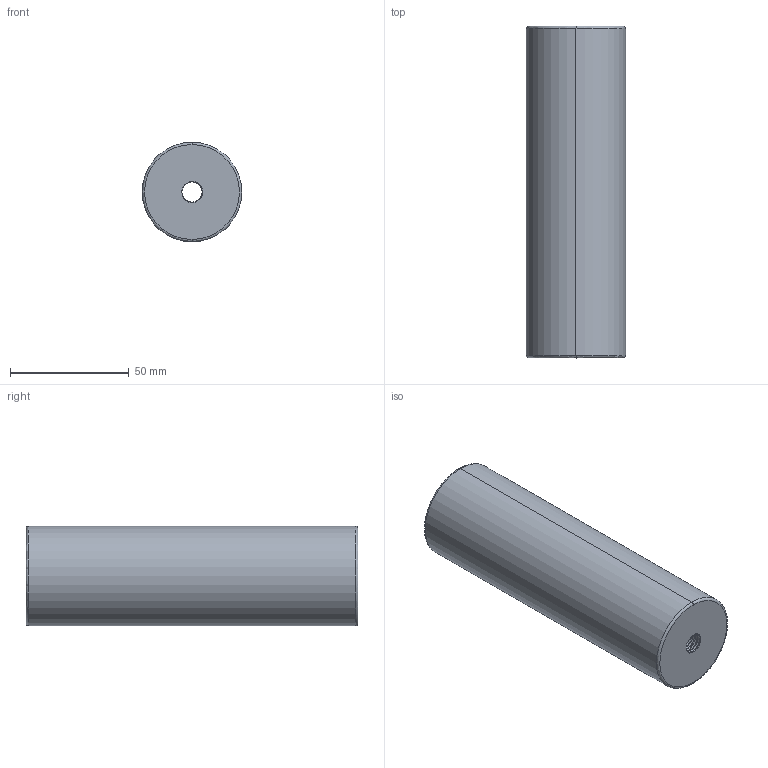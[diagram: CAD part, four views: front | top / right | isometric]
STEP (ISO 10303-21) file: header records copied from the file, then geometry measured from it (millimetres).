
FILE_DESCRIPTION( ( 'STEP AP203' ), '1' );
FILE_NAME( 'D:/Delta 3 D/D40/D40 - 42x140.step', '2002-12-31T23:13:23', ( ' ' ), ( ' ' ), 'XStep 1.0', ' ', ' ' );
FILE_SCHEMA( ( 'CONFIG_CONTROL_DESIGN' ) );
Length unit declared in the file: metre
Products named in the file (1): 1
Bounding box: 42 x 140 x 42 mm (x, y, z)
Volume: 84718.2 mm3; surface area: 34520.9 mm2
Topology: 1 solids, 1 shells, 58 faces, 155 edges, 100 vertices
Faces by surface type: revolution 45, bspline 13
Entity records: 3395 total; most frequent: CARTESIAN_POINT 2153, ORIENTED_EDGE 310, EDGE_CURVE 155, DIRECTION 144, VERTEX_POINT 100, B_SPLINE_CURVE_WITH_KNOTS 68, EDGE_LOOP 61, ADVANCED_FACE 58
